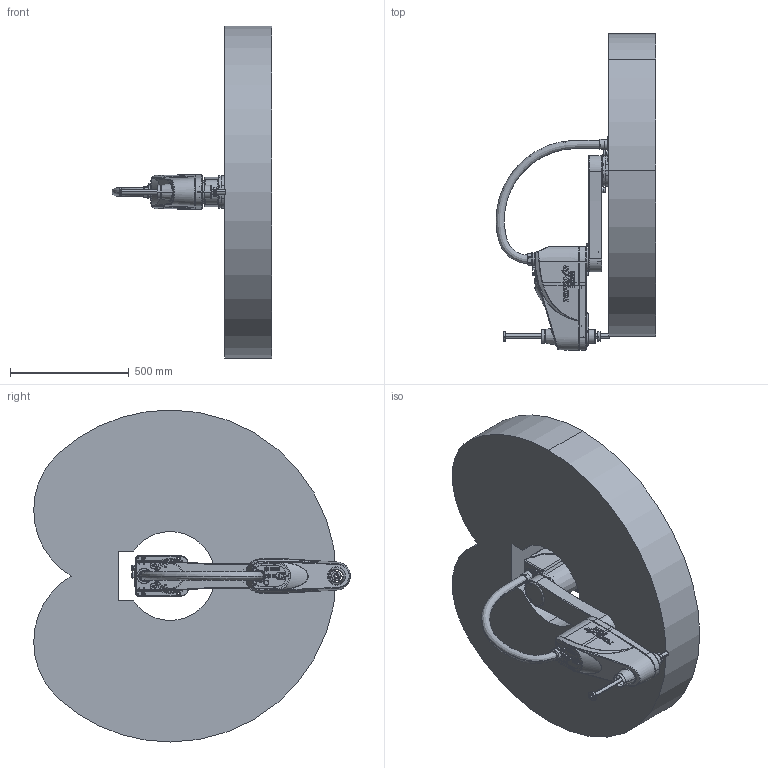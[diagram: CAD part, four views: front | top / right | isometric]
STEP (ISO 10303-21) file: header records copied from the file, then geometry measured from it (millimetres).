
FILE_DESCRIPTION (( 'STEP AP203' ), '1' );
FILE_NAME ('TRH005-700-200-S.STEP', '2025-03-18T00:51:40', ( 'Windows User' ), ( 'P R C' ), 'SwSTEP 2.0', 'SolidWorks 2023', '' );
FILE_SCHEMA (( 'CONFIG_CONTROL_DESIGN' ));
Length unit declared in the file: millimetre
Products named in the file (7): 复件 700S_3^TRH005-700-200-S可拖动机器人（SW2023）; 复件 700S_5^TRH005-700-200-S可拖动机器人（SW2023）; TRH005-700-200-S; 复件 700S_运动范围^TRH005-700-200-S可拖动机器人（SW2023）; 复件 700S_4^TRH005-700-200-S可拖动机器人（SW2023）; 复件 700S_2^TRH005-700-200-S可拖动机器人（SW2023）; 复件 700S_1^TRH005-700-200-S可拖动机器人（SW2023）
Assembly tree (6 placements, depth 2):
  TRH005-700-200-S
    复件 700S_1^TRH005-700-200-S可拖动机器人（SW2023）
    复件 700S_2^TRH005-700-200-S可拖动机器人（SW2023）
    复件 700S_3^TRH005-700-200-S可拖动机器人（SW2023）
    复件 700S_4^TRH005-700-200-S可拖动机器人（SW2023）
    复件 700S_5^TRH005-700-200-S可拖动机器人（SW2023）
    复件 700S_运动范围^TRH005-700-200-S可拖动机器人（SW2023）
Bounding box: 674.4 x 1334.9 x 1400 mm (x, y, z)
Volume: 265089350.1 mm3; surface area: 5043892.4 mm2
Topology: 7 solids, 200 shells, 2590 faces, 7810 edges, 5338 vertices
Faces by surface type: cylinder 1017, plane 933, cone 316, bspline 193, torus 111, sphere 20
Entity records: 122413 total; most frequent: CARTESIAN_POINT 53038, DIRECTION 14430, ORIENTED_EDGE 13071, EDGE_CURVE 7670, AXIS2_PLACEMENT_3D 5420, VERTEX_POINT 5338, VECTOR 3590, LINE 3590
